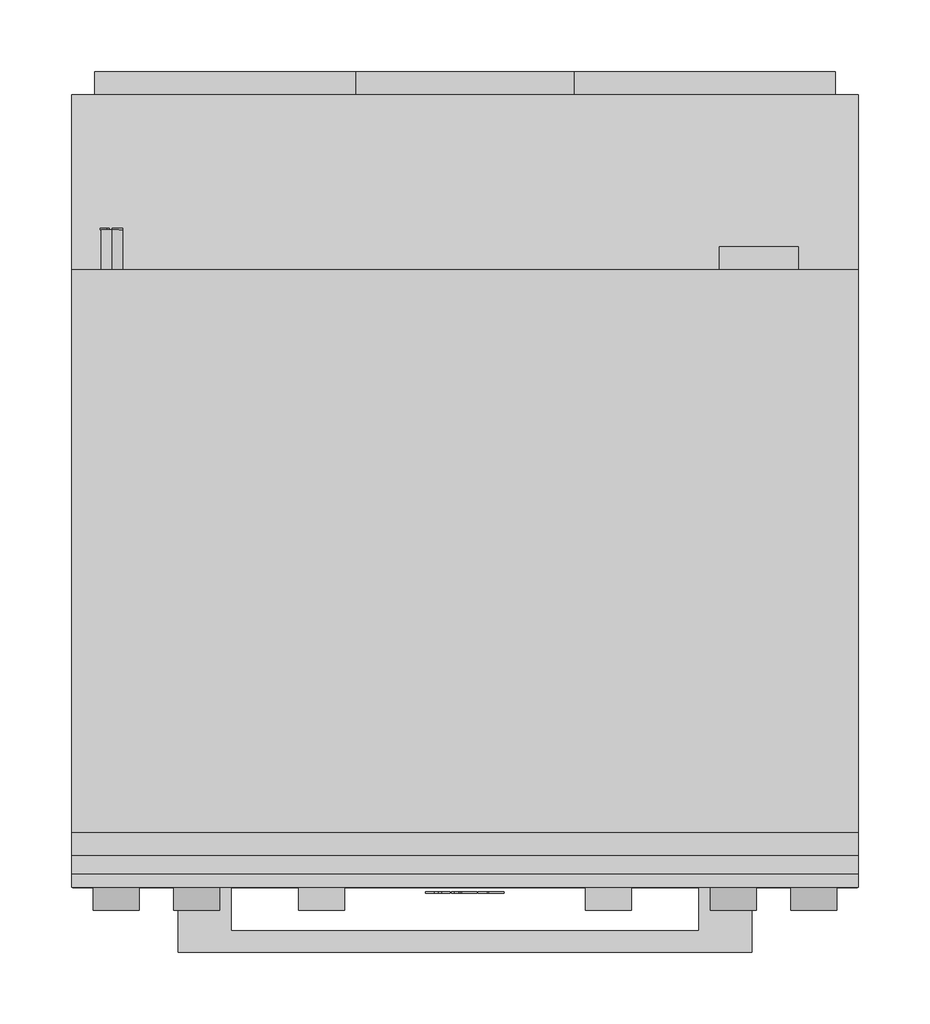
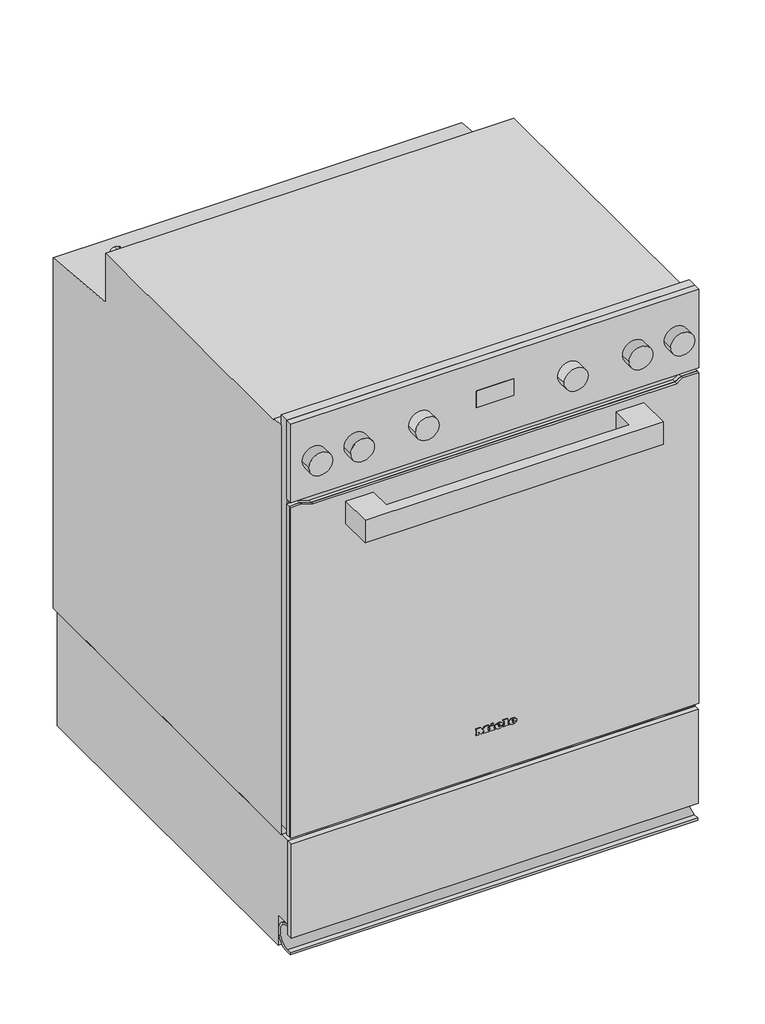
# Not in any storey: 1 proxy.
"""IFC4 building model written with IfcOpenShell, lengths in millimetres."""

from ifc_helpers import new_model, si_unit, origin, place, context, project, spatial, transform, mapped, element, save
from components import specialty_equipment_07215765

model = new_model("IFC4")

# Units and contexts
model_context = context("Model", 3, world=origin())
ifc_project = project(units=[si_unit("LENGTHUNIT", "METRE", prefix="MILLI")], contexts=[model_context])

# Site, building
site = spatial("IfcSite", under=ifc_project)
building = spatial("IfcBuilding", under=site)

# Proxy
placement = place(None, origin())
specialty_equipment_shape = specialty_equipment_07215765(model_context)
element("IfcBuildingElementProxy", 1, Name="12395250_CH_H2456-55E_OBSW : 22245626_CH_12395250_H2456-55E_OBSW", ObjectType="12395250_CH_H2456-55E_OBSW : 22245626_CH_12395250_H2456-55E_OBSW", at=placement, inside=building, context=model_context, shape_type="MappedRepresentation", body=[
    mapped(specialty_equipment_shape, transform((0.0, 0.0, 0.0), x_axis=(1.0, 0.0, 0.0), y_axis=(0.0, 1.0, 0.0), z_axis=(0.0, 0.0, 1.0))),
])

save(model, "model.ifc")
